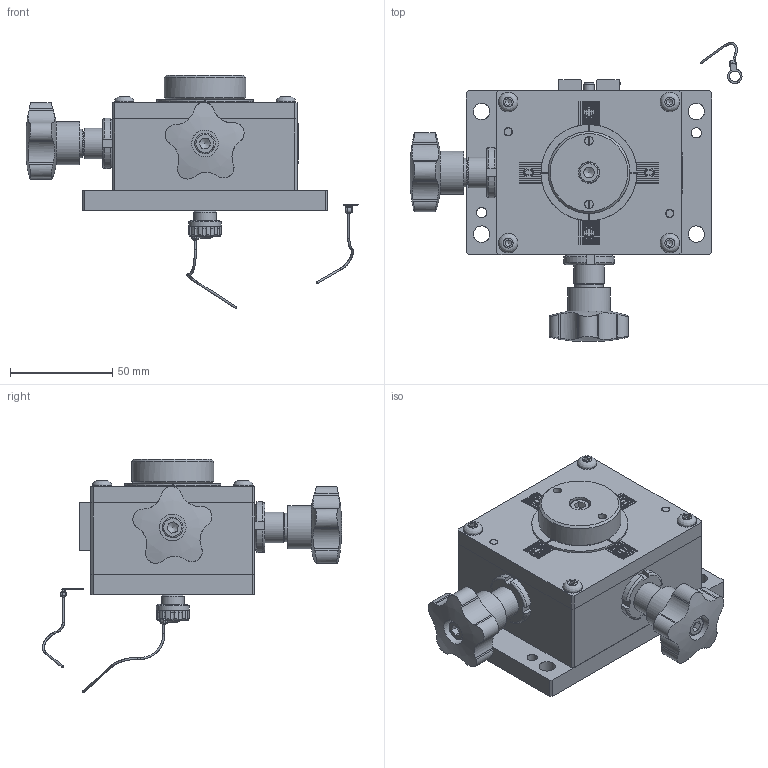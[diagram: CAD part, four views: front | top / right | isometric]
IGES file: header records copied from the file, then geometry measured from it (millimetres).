
Global section: file name: 146.00-SX-L; native system: Autodesk Inventor 2019; preprocessor: unknown; author: AP; date: 20200220.145718; units: millimetre
Bounding box: 162.33 x 146.23 x 114.09 mm (x, y, z)
Volume: 409179.2 mm3; surface area: 141157.1 mm2
Topology: 49 solids, 49 shells, 1134 faces, 2942 edges, 2006 vertices
Faces by surface type: bspline 1134
